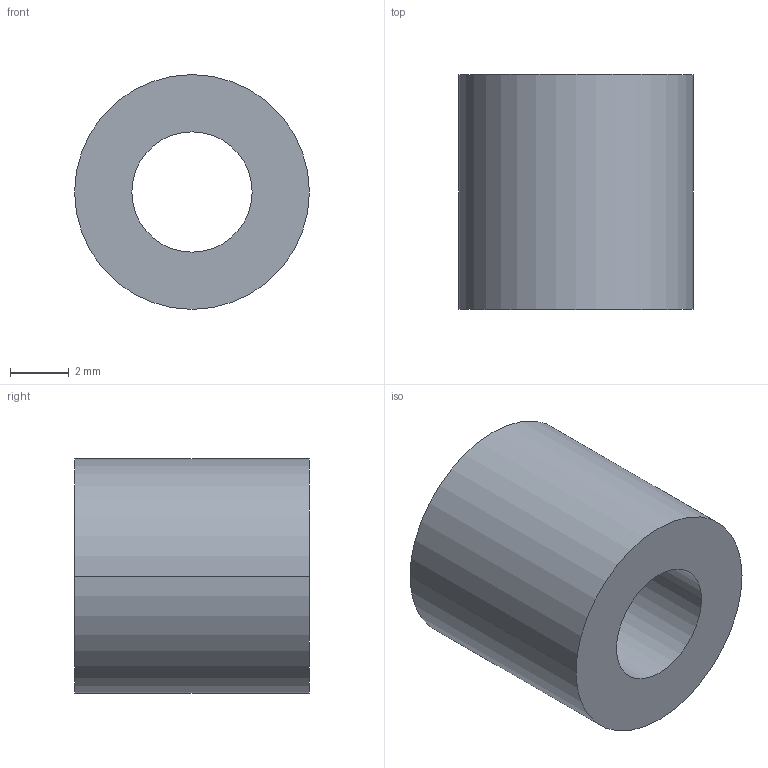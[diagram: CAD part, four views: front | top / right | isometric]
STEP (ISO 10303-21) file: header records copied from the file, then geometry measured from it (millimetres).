
FILE_DESCRIPTION (( 'STEP AP203' ), '1' );
FILE_NAME ('30800.WPP8B4.1.step', '2019-01-23T22:20:21', ( '' ), ( '' ), 'SwSTEP 2.0', 'SolidWorks 2017', '' );
FILE_SCHEMA (( 'CONFIG_CONTROL_DESIGN' ));
Length unit declared in the file: millimetre
Products named in the file (1): 30800.WPP8B4.1
Bounding box: 8 x 8 x 8 mm (x, y, z)
Volume: 293.4 mm3; surface area: 373.1 mm2
Topology: 1 solids, 1 shells, 8 faces, 16 edges, 10 vertices
Faces by surface type: cylinder 4, torus 2, plane 2
Entity records: 297 total; most frequent: DIRECTION 46, CARTESIAN_POINT 35, ORIENTED_EDGE 32, AXIS2_PLACEMENT_3D 21, EDGE_CURVE 16, CIRCLE 12, EDGE_LOOP 10, VERTEX_POINT 10
